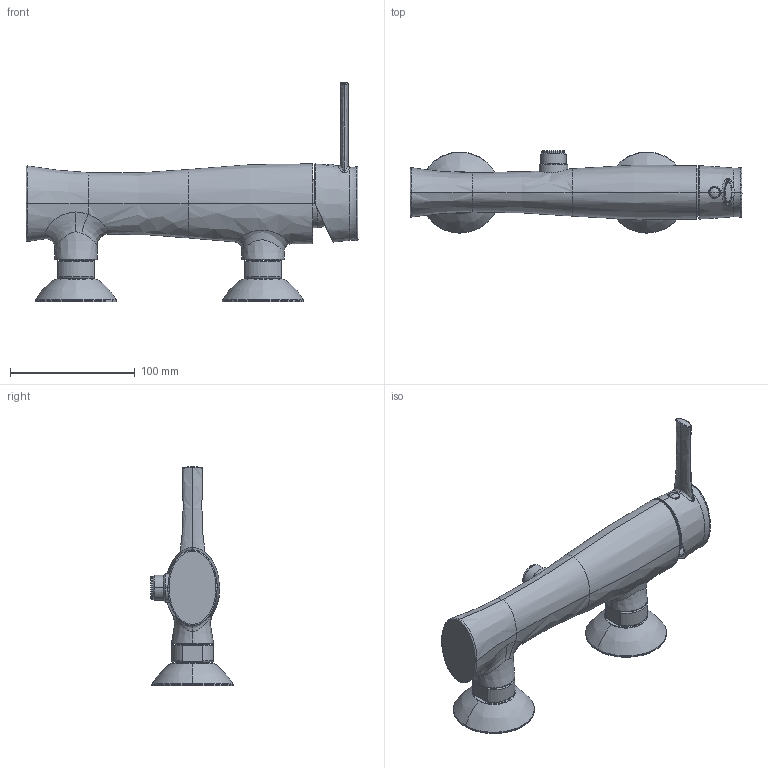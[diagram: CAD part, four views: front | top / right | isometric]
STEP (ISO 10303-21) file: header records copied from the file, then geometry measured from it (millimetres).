
FILE_DESCRIPTION((''),'2;1');
FILE_NAME('58006_SW0002','2026-03-03T10:09:24',('carloff'),(''),'CREO PARAMETRIC BY PTC INC, 2022014','CREO PARAMETRIC BY PTC INC, 2022014','');
FILE_SCHEMA(('CONFIG_CONTROL_DESIGN'));
Length unit declared in the file: millimetre
Products named in the file (1): 58006_SW0002
Bounding box: 266.22 x 65.8 x 175.62 mm (x, y, z)
Volume: 555615.7 mm3; surface area: 84123.1 mm2
Topology: 3 solids, 3 shells, 294 faces, 657 edges, 380 vertices
Faces by surface type: bspline 132, cylinder 66, plane 40, cone 30, torus 24, sphere 2
Entity records: 23209 total; most frequent: CARTESIAN_POINT 17572, ORIENTED_EDGE 1306, DIRECTION 947, EDGE_CURVE 653, AXIS2_PLACEMENT_3D 413, VERTEX_POINT 380, EDGE_LOOP 309, FACE_OUTER_BOUND 294
